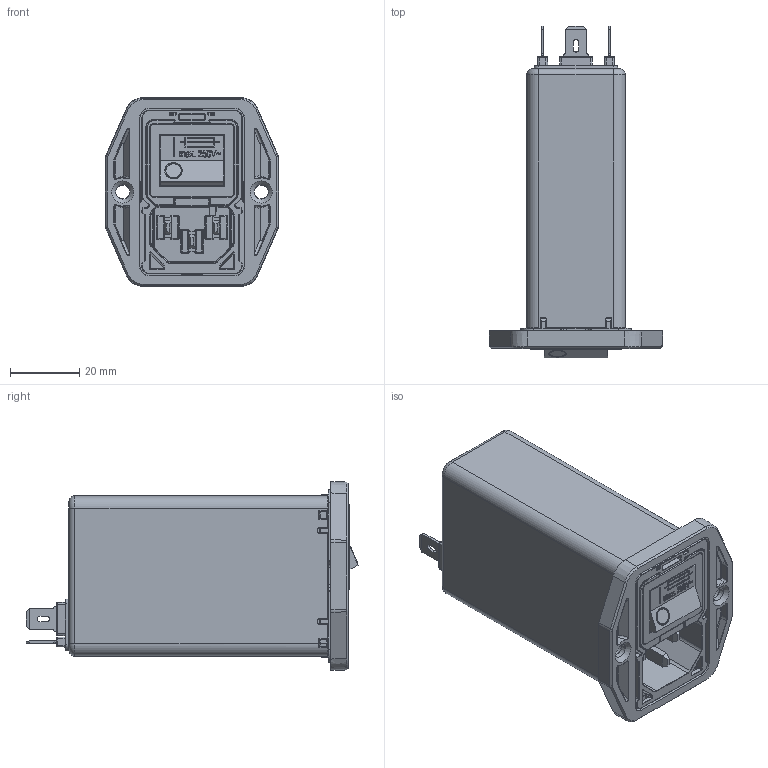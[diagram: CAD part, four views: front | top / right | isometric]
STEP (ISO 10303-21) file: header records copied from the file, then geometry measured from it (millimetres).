
FILE_DESCRIPTION((''),'2;1');
FILE_NAME('H:\02_Projects\A_Others\Z_Support\Luis\Cherry_STP\Step_Files\2 Stage\2_stage_faston_horizontal_front.stp','2012-07-26T14:57:45',('Samuel.Meier'),(''),'Autodesk Inventor 2010','Autodesk Inventor 2010','');
FILE_SCHEMA(('AUTOMOTIVE_DESIGN { 1 2 10303 214 0 1 1 1 }'));
Length unit declared in the file: millimetre
Products named in the file (1): 2_stage_faston_horizontal_front
Bounding box: 50.04 x 95.74 x 54.44 mm (x, y, z)
Surface area: 71157.6 mm2 (no closed solid volume)
Topology: 0 solids, 12 shells, 3640 faces, 9730 edges, 6022 vertices
Faces by surface type: plane 1443, cylinder 1371, bspline 544, torus 119, sphere 91, cone 72
Full cylindrical faces by diameter (mm): 0.8 x4, 1 x2, 1.1 x10, 1.2 x1, 2.7 x1, 3.3 x1, 3.6 x2, 4 x2, 4.5 x2, 6.5 x1, 7.2 x2, 8.2 x2
Entity records: 124876 total; most frequent: CARTESIAN_POINT 31590, ORIENTED_EDGE 19178, DIRECTION 18568, EDGE_CURVE 9589, AXIS2_PLACEMENT_3D 6522, VERTEX_POINT 6014, VECTOR 5524, LINE 5524
